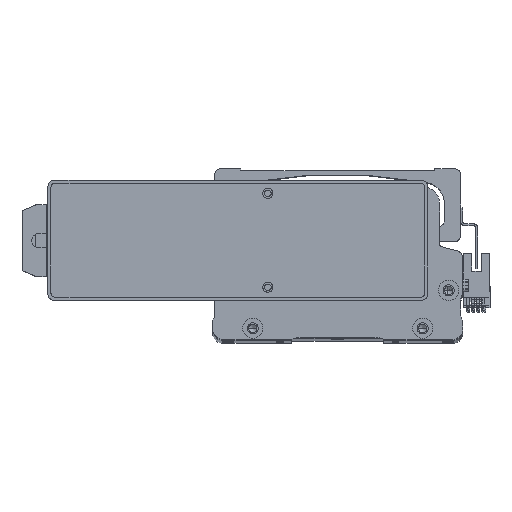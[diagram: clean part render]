
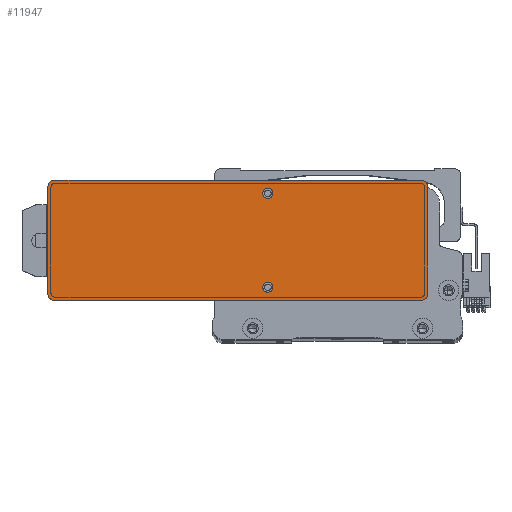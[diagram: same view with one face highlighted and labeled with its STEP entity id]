
A CAD part, top view. The second image highlights one B-rep face of the part: STEP entity #11947.
In plain terms, the highlighted planar face has unit normal (0, 0, 1) as drawn and (0, 0, -1) by its records, which use the part's own axes.
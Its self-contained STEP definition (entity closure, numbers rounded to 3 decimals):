
#12 = EDGE_CURVE ( 'NONE', #52437, #41736, #18672, .T. ) ;
#320 = DIRECTION ( 'NONE',  ( 1., 0., 0. ) ) ;
#2010 = AXIS2_PLACEMENT_3D ( 'NONE', #74845, #37645, #320 ) ;
#2102 = EDGE_CURVE ( 'NONE', #11340, #22040, #23810, .T. ) ;
#2396 = AXIS2_PLACEMENT_3D ( 'NONE', #19462, #62963, #25730 ) ;
#2452 = ORIENTED_EDGE ( 'NONE', *, *, #63408, .T. ) ;
#2968 = CARTESIAN_POINT ( 'NONE',  ( 95., -30., 0. ) ) ;
#3041 = CARTESIAN_POINT ( 'NONE',  ( 95., 27., 0. ) ) ;
#3399 = EDGE_LOOP ( 'NONE', ( #23252, #35586, #61819, #22413, #70517, #2452, #17790, #44982 ) ) ;
#3834 = VERTEX_POINT ( 'NONE', #25737 ) ;
#4086 = CARTESIAN_POINT ( 'NONE',  ( 92., 30., 0. ) ) ;
#4422 = DIRECTION ( 'NONE',  ( -1., 0., 0. ) ) ;
#5440 = FACE_BOUND ( 'NONE', #20740, .T. ) ;
#5769 = CIRCLE ( 'NONE', #21016, 3. ) ;
#6217 = VECTOR ( 'NONE', #62004, 1000. ) ;
#6779 = ORIENTED_EDGE ( 'NONE', *, *, #45301, .F. ) ;
#7444 = CARTESIAN_POINT ( 'NONE',  ( -15., -23.5, 0. ) ) ;
#9033 = DIRECTION ( 'NONE',  ( 0., 0., -1. ) ) ;
#9252 = DIRECTION ( 'NONE',  ( 1., 0., 0. ) ) ;
#9313 = CARTESIAN_POINT ( 'NONE',  ( -12.5, 23.5, 0. ) ) ;
#9545 = DIRECTION ( 'NONE',  ( -1., 0., 0. ) ) ;
#10318 = DIRECTION ( 'NONE',  ( 0., 0., 1. ) ) ;
#10845 = CARTESIAN_POINT ( 'NONE',  ( 92., 27., 0. ) ) ;
#11340 = VERTEX_POINT ( 'NONE', #30219 ) ;
#11813 = CARTESIAN_POINT ( 'NONE',  ( -12.5, -23.5, 0. ) ) ;
#11947 = ADVANCED_FACE ( 'NONE', ( #38579, #24044, #5440 ), #65786, .F. ) ;
#13626 = EDGE_CURVE ( 'NONE', #14518, #32190, #15980, .T. ) ;
#13735 = DIRECTION ( 'NONE',  ( -1., 0., 0. ) ) ;
#14275 = VERTEX_POINT ( 'NONE', #37888 ) ;
#14376 = EDGE_CURVE ( 'NONE', #52437, #3834, #62475, .T. ) ;
#14518 = VERTEX_POINT ( 'NONE', #4086 ) ;
#14614 = CARTESIAN_POINT ( 'NONE',  ( -17.5, -23.5, 0. ) ) ;
#15980 = LINE ( 'NONE', #40255, #80143 ) ;
#16721 = VECTOR ( 'NONE', #9252, 1000. ) ;
#17078 = DIRECTION ( 'NONE',  ( 1., 0., 0. ) ) ;
#17324 = AXIS2_PLACEMENT_3D ( 'NONE', #10845, #54346, #17078 ) ;
#17790 = ORIENTED_EDGE ( 'NONE', *, *, #13626, .F. ) ;
#18044 = CARTESIAN_POINT ( 'NONE',  ( 92., -30., 0. ) ) ;
#18049 = AXIS2_PLACEMENT_3D ( 'NONE', #7444, #50982, #13735 ) ;
#18084 = CARTESIAN_POINT ( 'NONE',  ( 95., -27., 0. ) ) ;
#18672 = LINE ( 'NONE', #2968, #16721 ) ;
#19108 = AXIS2_PLACEMENT_3D ( 'NONE', #47596, #10318, #53823 ) ;
#19462 = CARTESIAN_POINT ( 'NONE',  ( -15., -23.5, 0. ) ) ;
#20331 = LINE ( 'NONE', #51798, #51485 ) ;
#20740 = EDGE_LOOP ( 'NONE', ( #80385, #71508 ) ) ;
#21016 = AXIS2_PLACEMENT_3D ( 'NONE', #23474, #66922, #29721 ) ;
#22040 = VERTEX_POINT ( 'NONE', #9313 ) ;
#22413 = ORIENTED_EDGE ( 'NONE', *, *, #14376, .T. ) ;
#23252 = ORIENTED_EDGE ( 'NONE', *, *, #30356, .F. ) ;
#23428 = CIRCLE ( 'NONE', #2396, 2.5 ) ;
#23474 = CARTESIAN_POINT ( 'NONE',  ( -92., 27., 0. ) ) ;
#23810 = CIRCLE ( 'NONE', #26341, 2.5 ) ;
#23847 = CARTESIAN_POINT ( 'NONE',  ( -15., 23.5, 0. ) ) ;
#24044 = FACE_OUTER_BOUND ( 'NONE', #3399, .T. ) ;
#25196 = EDGE_CURVE ( 'NONE', #31783, #52201, #23428, .T. ) ;
#25730 = DIRECTION ( 'NONE',  ( -1., 0., 0. ) ) ;
#25737 = CARTESIAN_POINT ( 'NONE',  ( -95., -27., 0. ) ) ;
#26341 = AXIS2_PLACEMENT_3D ( 'NONE', #23847, #67281, #30126 ) ;
#27812 = CIRCLE ( 'NONE', #2010, 3. ) ;
#29721 = DIRECTION ( 'NONE',  ( 1., 0., 0. ) ) ;
#30126 = DIRECTION ( 'NONE',  ( -1., 0., 0. ) ) ;
#30219 = CARTESIAN_POINT ( 'NONE',  ( -17.5, 23.5, 0. ) ) ;
#30356 = EDGE_CURVE ( 'NONE', #31802, #32024, #20331, .T. ) ;
#31783 = VERTEX_POINT ( 'NONE', #11813 ) ;
#31802 = VERTEX_POINT ( 'NONE', #18084 ) ;
#32024 = VERTEX_POINT ( 'NONE', #3041 ) ;
#32190 = VERTEX_POINT ( 'NONE', #80370 ) ;
#34332 = CIRCLE ( 'NONE', #18049, 2.5 ) ;
#35586 = ORIENTED_EDGE ( 'NONE', *, *, #54042, .T. ) ;
#37645 = DIRECTION ( 'NONE',  ( 0., 0., -1. ) ) ;
#37888 = CARTESIAN_POINT ( 'NONE',  ( -95., 27., 0. ) ) ;
#38579 = FACE_BOUND ( 'NONE', #46928, .T. ) ;
#39511 = DIRECTION ( 'NONE',  ( 0., 1., 0. ) ) ;
#40255 = CARTESIAN_POINT ( 'NONE',  ( 95., 30., 0. ) ) ;
#40389 = AXIS2_PLACEMENT_3D ( 'NONE', #78947, #41744, #4422 ) ;
#40789 = EDGE_CURVE ( 'NONE', #14275, #3834, #41312, .T. ) ;
#41312 = LINE ( 'NONE', #43251, #6217 ) ;
#41736 = VERTEX_POINT ( 'NONE', #18044 ) ;
#41744 = DIRECTION ( 'NONE',  ( 0., 0., -1. ) ) ;
#42952 = EDGE_CURVE ( 'NONE', #14518, #32024, #79720, .T. ) ;
#43251 = CARTESIAN_POINT ( 'NONE',  ( -95., -30., 0. ) ) ;
#44982 = ORIENTED_EDGE ( 'NONE', *, *, #42952, .T. ) ;
#45301 = EDGE_CURVE ( 'NONE', #22040, #11340, #62591, .T. ) ;
#46293 = CARTESIAN_POINT ( 'NONE',  ( -92., -27., 0. ) ) ;
#46928 = EDGE_LOOP ( 'NONE', ( #63315, #6779 ) ) ;
#47596 = CARTESIAN_POINT ( 'NONE',  ( 0., 0., 0. ) ) ;
#48276 = CARTESIAN_POINT ( 'NONE',  ( -92., -30., 0. ) ) ;
#50982 = DIRECTION ( 'NONE',  ( 0., 0., -1. ) ) ;
#51485 = VECTOR ( 'NONE', #39511, 1000. ) ;
#51686 = AXIS2_PLACEMENT_3D ( 'NONE', #46293, #9033, #52568 ) ;
#51798 = CARTESIAN_POINT ( 'NONE',  ( 95., -30., 0. ) ) ;
#52201 = VERTEX_POINT ( 'NONE', #14614 ) ;
#52437 = VERTEX_POINT ( 'NONE', #48276 ) ;
#52568 = DIRECTION ( 'NONE',  ( 1., 0., 0. ) ) ;
#53823 = DIRECTION ( 'NONE',  ( 1., 0., 0. ) ) ;
#54042 = EDGE_CURVE ( 'NONE', #31802, #41736, #27812, .T. ) ;
#54346 = DIRECTION ( 'NONE',  ( 0., 0., -1. ) ) ;
#58338 = EDGE_CURVE ( 'NONE', #52201, #31783, #34332, .T. ) ;
#61819 = ORIENTED_EDGE ( 'NONE', *, *, #12, .F. ) ;
#62004 = DIRECTION ( 'NONE',  ( 0., -1., 0. ) ) ;
#62475 = CIRCLE ( 'NONE', #51686, 3. ) ;
#62591 = CIRCLE ( 'NONE', #40389, 2.5 ) ;
#62963 = DIRECTION ( 'NONE',  ( 0., 0., -1. ) ) ;
#63315 = ORIENTED_EDGE ( 'NONE', *, *, #2102, .F. ) ;
#63408 = EDGE_CURVE ( 'NONE', #14275, #32190, #5769, .T. ) ;
#65786 = PLANE ( 'NONE',  #19108 ) ;
#66922 = DIRECTION ( 'NONE',  ( 0., 0., -1. ) ) ;
#67281 = DIRECTION ( 'NONE',  ( 0., 0., -1. ) ) ;
#70517 = ORIENTED_EDGE ( 'NONE', *, *, #40789, .F. ) ;
#71508 = ORIENTED_EDGE ( 'NONE', *, *, #25196, .F. ) ;
#74845 = CARTESIAN_POINT ( 'NONE',  ( 92., -27., 0. ) ) ;
#78947 = CARTESIAN_POINT ( 'NONE',  ( -15., 23.5, 0. ) ) ;
#79720 = CIRCLE ( 'NONE', #17324, 3. ) ;
#80143 = VECTOR ( 'NONE', #9545, 1000. ) ;
#80370 = CARTESIAN_POINT ( 'NONE',  ( -92., 30., 0. ) ) ;
#80385 = ORIENTED_EDGE ( 'NONE', *, *, #58338, .F. ) ;
